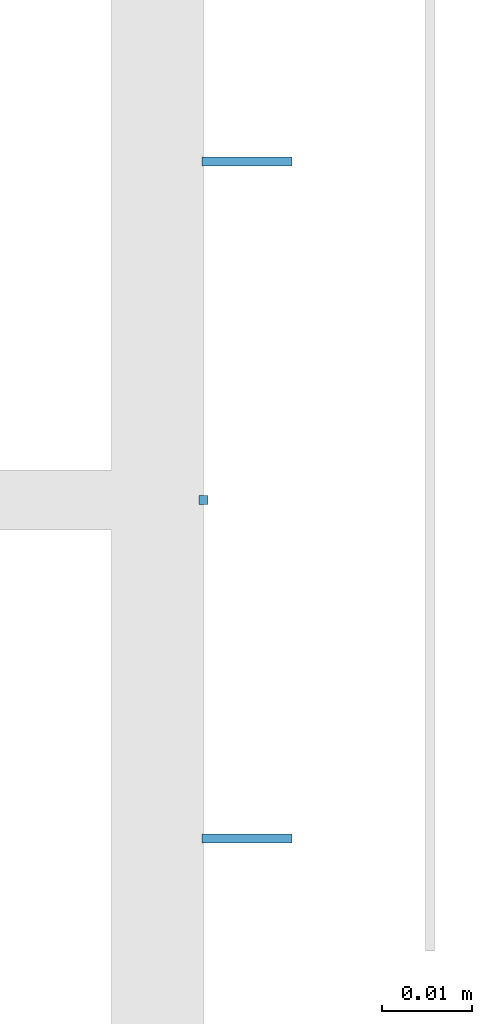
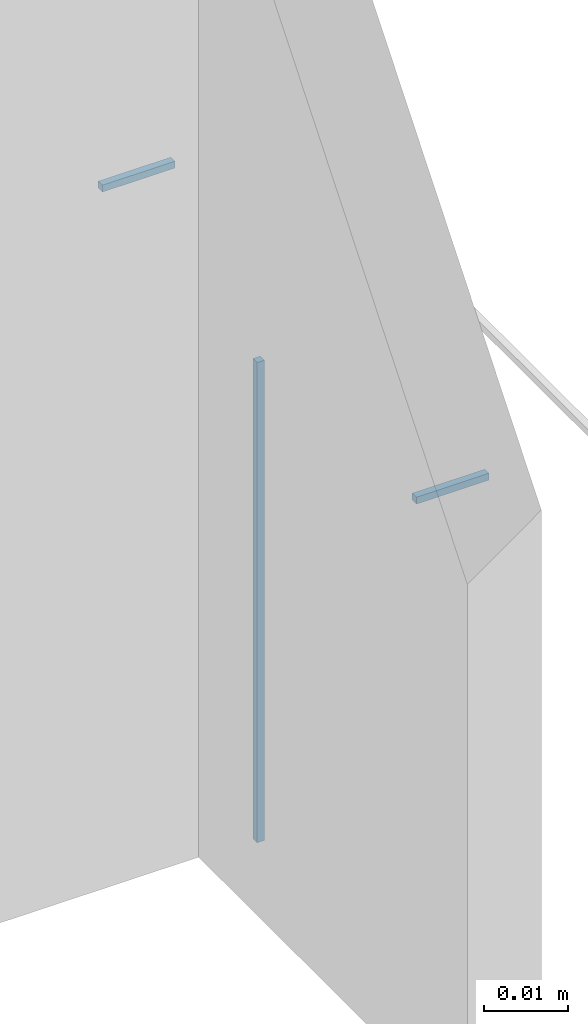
# One storey, part 73 of 186: 3 beams.
"""IFC4X3_ADD2 building model written with IfcOpenShell, lengths in millimetres."""

from ifc_helpers import new_model, si_unit, direction, frame, frame_2d, origin_with_axes, place, context, subcontext, project, spatial, rectangle, extrude, material, element, save


model = new_model("IFC4X3_ADD2")

# Units and contexts
model_context = context("Model", 3, precision=1e-05, world=origin_with_axes(), true_north=direction((0.0, 1.0)))
body_context = subcontext(model_context, "Body", "Model", "MODEL_VIEW")
ifc_project = project(units=[si_unit("LENGTHUNIT", "METRE", prefix="MILLI"), si_unit("AREAUNIT", "SQUARE_METRE"), si_unit("VOLUMEUNIT", "CUBIC_METRE"), si_unit("PLANEANGLEUNIT", "RADIAN"), si_unit("TIMEUNIT", "SECOND"), si_unit("MASSUNIT", "GRAM")], contexts=[model_context])

# Site, building, storey
site_placement = place(None, origin_with_axes())
site = spatial("IfcSite", under=ifc_project, at=site_placement, Name="Site", CompositionType="ELEMENT")
building_placement = place(site_placement, origin_with_axes())
building = spatial("IfcBuilding", under=site, at=building_placement, Name="IFC Building Story")
storey_placement = place(building_placement, frame((0.0, 0.0, 4370.0), z_axis=(0.0, 0.0, 1.0), x_axis=(1.0, 0.0, 0.0)))
storey = spatial("IfcBuildingStorey", under=building, at=storey_placement, Name="ETAGE 10 (1)", Elevation=4370.0)

# Beams
ifc_material = material(Name="STEEL/Accessory_invisible")
beam_placement = place(storey_placement, frame((4778.58977737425, 4500.000202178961, 3892.0), z_axis=(-1.0, 0.0, 0.0), x_axis=(0.0, 0.0, 1.0)))
element("IfcBeam", 1, at=beam_placement, inside=storey, material=ifc_material, Name="ZW1", ObjectType="1*1 10", context=body_context, shape_type="SweptSolid", body=[
    extrude(rectangle(XDim=70.0000000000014, YDim=1.0, at=frame_2d((0.0, 5.95523630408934e-12), x_axis=(1.0, 0.0))), origin_with_axes(), (0.0, 0.0, 1.0), 1.0),
])
for number, where, z_axis, x_axis, name in (
    (2, (4787.889777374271, 4537.500202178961, 3929.5), (-1.0, 0.0, 0.0), (0.0, 1.0, 0.0), "MP21"),
    (3, (4787.889777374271, 4462.500202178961, 3929.5), (-1.0, 0.0, 0.0), (0.0, 1.0, 0.0), "MP21"),
):
    element("IfcBeam", number, at=place(storey_placement, frame(where, z_axis=z_axis, x_axis=x_axis)), inside=storey, material=ifc_material, Name=name, ObjectType="1*1 3", context=body_context, shape_type="SweptSolid", body=[
        extrude(rectangle(XDim=0.9999999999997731, YDim=0.9999999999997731, at=frame_2d((0.0, 5.95523630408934e-12), x_axis=(1.0, 0.0))), origin_with_axes(), (0.0, 0.0, 1.0), 10.0),
    ])

save(model, "model.ifc")
